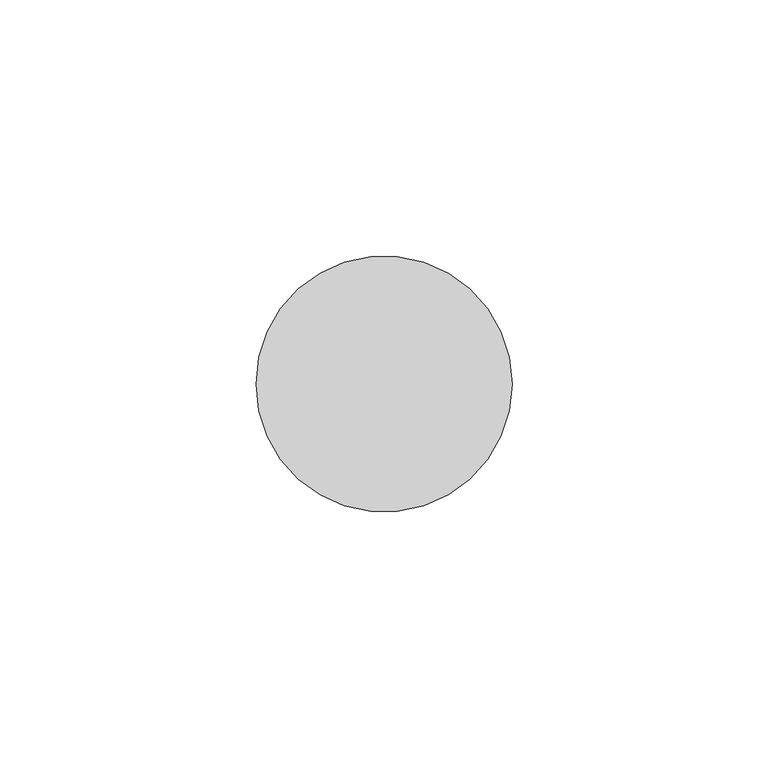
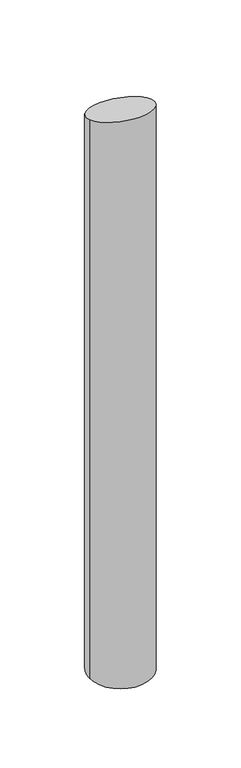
"""IFC4 building model written with IfcOpenShell, lengths in millimetres: member geometry, Импост круглого сечения : Радиус 25мм."""

from ifc_helpers import new_model, si_unit, frame, origin, place, context, project, spatial, circle_curve, ellipse_curve, source, transform, mapped, element, save
from ifc_brep_helpers import plane_surface, cylinder_surface, advanced_brep


def member_9f0fa0cb(model_context):
    return source(origin(), model_context, "Body", "AdvancedBrep", [
        advanced_brep(
        [(0.0, 0.0, -475.0), (-50.0, 0.0, -475.0), (-50.0, 0.0, 0.0), (0.0, 0.0, 0.0)],
        [
            (0, 1, circle_curve(frame((-25.0, 0.0, -475.0), z_axis=(0.0, 0.0, -1.0), x_axis=(1.0, 0.0, 0.0)), 25.0)),
            (1, 0, circle_curve(frame((-25.0, 0.0, -475.0), z_axis=(0.0, 0.0, -1.0), x_axis=(1.0, 0.0, 0.0)), 25.0)),
            (2, 3, ellipse_curve(frame((-25.0, 0.0, 0.0), z_axis=(0.0, -0.31661280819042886, -0.9485548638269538), x_axis=(0.0, -0.9485548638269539, 0.3166128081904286)), 26.3558819, 25.0)),
            (3, 0),
            (1, 2),
            (3, 2, ellipse_curve(frame((-25.0, 0.0, 0.0), z_axis=(0.0, -0.31661280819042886, -0.9485548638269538), x_axis=(0.0, -0.9485548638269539, 0.3166128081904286)), 26.3558819, 25.0)),
        ],
        [
            plane_surface(frame((0.0, -50.0, -475.0), z_axis=(0.0, 0.0, -1.0), x_axis=(-1.0, 0.0, 0.0))),
            cylinder_surface(frame((-25.0, 0.0, 0.0), z_axis=(0.0, 0.0, 1.0), x_axis=(1.0, 0.0, 0.0)), 25.0),
            plane_surface(frame((-304.8, 0.0, 0.0), z_axis=(0.0, 0.31661280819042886, 0.9485548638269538), x_axis=(0.0, 0.9485548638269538, -0.31661280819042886))),
        ],
        [
            (0, [[1, 2]]),
            (1, [[3, 4, -2, 5]]),
            (1, [[6, -5, -1, -4]]),
            (2, [[-3, -6]]),
        ],
    ),
    ])


if __name__ == "__main__":
    model = new_model("IFC4")
    model_context = context("Model", 3, world=origin())
    ifc_project = project(units=[si_unit("LENGTHUNIT", "METRE", prefix="MILLI")], contexts=[model_context])
    site = spatial("IfcSite", under=ifc_project)
    building = spatial("IfcBuilding", under=site)
    placement = place(None, origin())
    member_shape = member_9f0fa0cb(model_context)
    element("IfcMember", 1, ObjectType="Импост круглого сечения : Радиус 25мм", at=placement, inside=building, context=model_context, shape_type="MappedRepresentation", body=[
        mapped(member_shape, transform((0.0, 0.0, 0.0), x_axis=(1.0, 0.0, 0.0), y_axis=(0.0, 1.0, 0.0), z_axis=(0.0, 0.0, 1.0))),
    ])
    save(model, "model.ifc")
